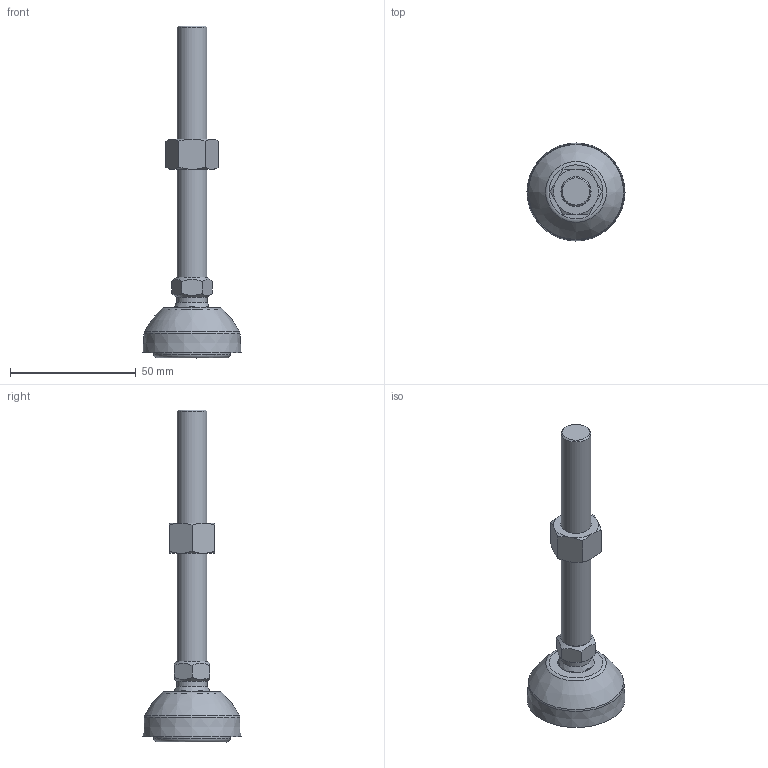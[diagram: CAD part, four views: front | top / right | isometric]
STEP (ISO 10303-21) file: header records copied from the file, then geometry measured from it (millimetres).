
FILE_DESCRIPTION(/* description */ (''),/* implementation_level */ '2;1');
FILE_NAME(/* name */ 'Articulating Anti-slip Levelling Foot - Nylon 39mm - M12 - 100mm.step',/* time_stamp */ '2025-10-14T14:51:16+03:00',/* author */ (''),/* organization */ (''),/* preprocessor_version */ 'ST-DEVELOPER v20.1',/* originating_system */ 'Autodesk Translation Framework v14.17.0.0',/* authorisation */ '');
FILE_SCHEMA (('AUTOMOTIVE_DESIGN { 1 0 10303 214 3 1 1 }'));
Length unit declared in the file: millimetre
Products named in the file (5): Articulating Anti-slip Levelling Foot - Nylon 39mm - M12 - 100mm; Articulating Levelling Foot Stud - M12 - 100mm; hex nut style 2_am_B18.2.4.2M - Hex nut, Style 2,  M12 x 1.75 --D-N; Articulating Levelling Foot Stud - M12 - 100mm_1; 340.1200A.01
Assembly tree (4 placements, depth 3):
  Articulating Anti-slip Levelling Foot - Nylon 39mm - M12 - 100mm
    Articulating Levelling Foot Stud - M12 - 100mm
      hex nut style 2_am_B18.2.4.2M - Hex nut, Style 2,  M12 x 1.75 --D-N
      Articulating Levelling Foot Stud - M12 - 100mm_1
    340.1200A.01
Bounding box: 39 x 39 x 132.11 mm (x, y, z)
Volume: 35357.5 mm3; surface area: 13578.7 mm2
Topology: 4 solids, 12 shells, 118 faces, 250 edges, 165 vertices
Faces by surface type: plane 61, cone 34, cylinder 17, torus 3, bspline 2, sphere 1
Full cylindrical faces by diameter (mm): 10.274 x1, 11.834 x1, 12 x1, 12.166 x1, 14.5 x1, 14.8 x1, 15.5 x1, 30.5 x1, 31.6 x1
Entity records: 4076 total; most frequent: CARTESIAN_POINT 1511, DIRECTION 525, ORIENTED_EDGE 496, EDGE_CURVE 248, AXIS2_PLACEMENT_3D 229, VERTEX_POINT 165, EDGE_LOOP 131, FACE_OUTER_BOUND 118
